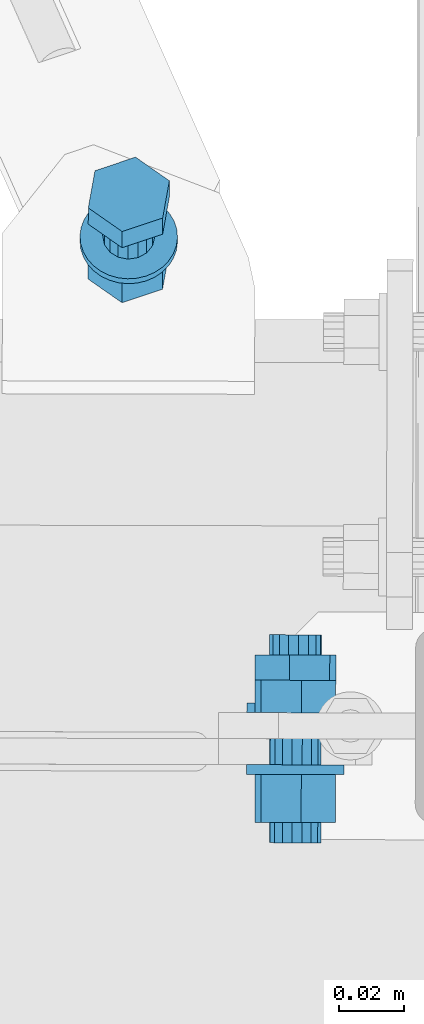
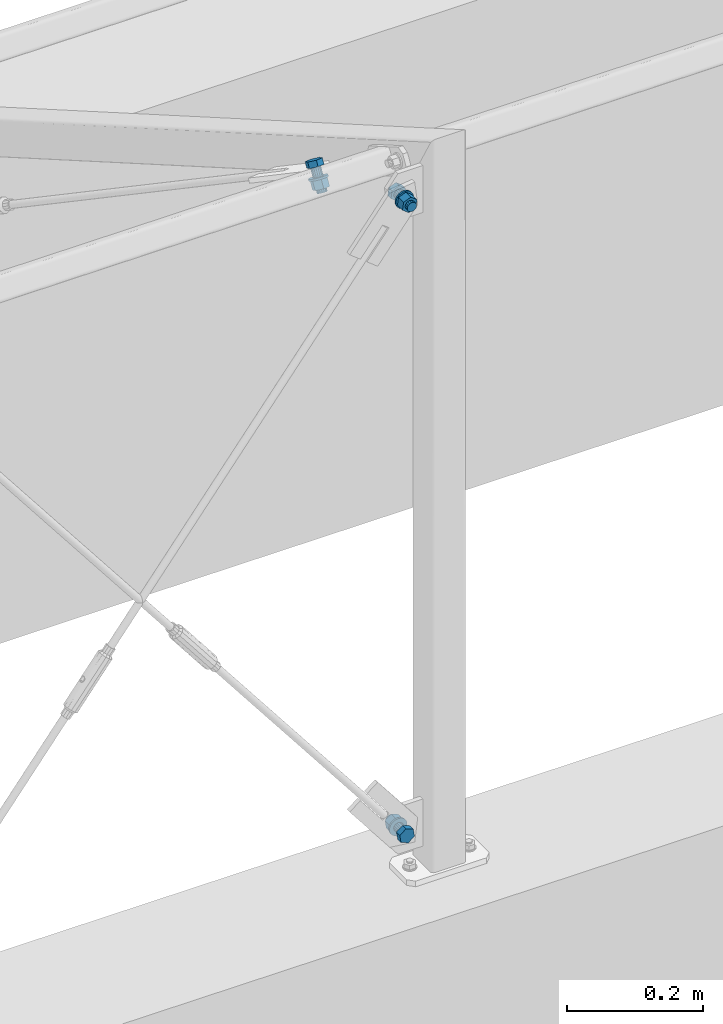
# One storey, part 209 of 288: 3 mechanical fasteners.
"""IFC2X3 building model written with IfcOpenShell, lengths in millimetres."""

from ifc_helpers import new_model, entity, si_unit, converted_unit, origin_with_axes, place, context, project, spatial, faceted_brep, element, save


model = new_model("IFC2X3")

# Units and contexts
model_context = context("Model", 3, precision=1e-09, world=origin_with_axes())
ifc_project = project(units=[si_unit("LENGTHUNIT", "METRE", prefix="MILLI"), si_unit("AREAUNIT", "SQUARE_METRE"), si_unit("VOLUMEUNIT", "CUBIC_METRE"), converted_unit("PLANEANGLEUNIT", "DEGREE", entity("IfcPlaneAngleMeasure", 0.01745329), si_unit("PLANEANGLEUNIT", "RADIAN"), dimensions=[0, 0, 0, 0, 0, 0, 0])], contexts=[model_context])

# Site, building, storey
site_placement = place(None, origin_with_axes())
site = spatial("IfcSite", under=ifc_project, at=site_placement, Name="Remont ?wietlik?w nad MC w NCPP w Opolu", CompositionType="ELEMENT")
building_placement = place(site_placement, origin_with_axes())
building = spatial("IfcBuilding", under=site, at=building_placement, Name="Konstrukcja 1", CompositionType="ELEMENT")
storey_placement = place(building_placement, origin_with_axes())
storey = spatial("IfcBuildingStorey", under=building, at=storey_placement, Name="Default Storey", CompositionType="ELEMENT", Elevation=0.0)

# Mechanical fasteners
mechanical_fastener_1_placement = place(None, origin_with_axes())
element("IfcMechanicalFastener", 1, at=mechanical_fastener_1_placement, inside=storey, ObjectType="Bolt#1", NominalDiameter=16.0, NominalLength=40.0, context=model_context, shape_type="Brep", body=[
    faceted_brep([(6947.486895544, -136.662814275, 1206.069501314), (6947.50943962, -126.662839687, 1206.069501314), (6959.9102046, -126.690796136, 1211.080576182), (6959.887660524, -136.690770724, 1211.080576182), (6961.770879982, -126.694990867, 1224.325518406), (6961.748335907, -136.694965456, 1224.325518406), (6951.230790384, -126.671229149, 1232.559385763), (6951.208246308, -136.671203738, 1232.559385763), (6938.830025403, -126.6432727, 1227.548310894), (6938.807481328, -136.643247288, 1227.548310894), (6936.969350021, -126.639077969, 1214.30336867), (6936.946805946, -136.639052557, 1214.30336867)], [[[0, 1, 2, 3]], [[3, 2, 4, 5]], [[5, 4, 6, 7]], [[7, 6, 8, 9]], [[9, 8, 10, 11]], [[11, 10, 1, 0]], [[4, 2, 1, 10, 8, 6]], [[0, 3, 5, 7, 9, 11]]]),
    faceted_brep([(6954.272488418, -136.678111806, 1225.618812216), (6954.236417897, -152.678071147, 1225.618812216), (6956.274102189, -152.682664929, 1223.254231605), (6956.31017271, -136.682705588, 1223.254231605), (6957.251793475, -152.68486905, 1220.289853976), (6957.287863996, -136.684909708, 1220.289853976), (6957.020647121, -152.68434795, 1217.17697895), (6957.056717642, -136.684388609, 1217.17697895), (6955.615853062, -152.681180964, 1214.389513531), (6955.651923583, -136.681221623, 1214.389513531), (6953.251278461, -152.675850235, 1212.351824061), (6953.287348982, -136.675890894, 1212.351824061), (6950.286908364, -152.66916732, 1211.37413029), (6950.322978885, -136.669207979, 1211.37413029), (6947.174041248, -152.662149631, 1211.605277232), (6947.210111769, -136.66219029, 1211.605277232), (6944.386582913, -152.655865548, 1213.010074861), (6944.422653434, -136.655906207, 1213.010074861), (6942.348898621, -152.651271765, 1215.374655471), (6942.384969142, -136.651312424, 1215.374655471), (6941.371207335, -152.649067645, 1218.3390331), (6941.407277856, -136.649108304, 1218.3390331), (6941.60235369, -152.649588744, 1221.451908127), (6941.638424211, -136.649629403, 1221.451908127), (6943.007147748, -152.652755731, 1224.239373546), (6943.043218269, -136.65279639, 1224.239373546), (6945.37172235, -152.658086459, 1226.277063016), (6945.407792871, -136.658127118, 1226.277063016), (6948.336092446, -152.664769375, 1227.254756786), (6948.372162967, -136.664810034, 1227.254756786), (6951.448959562, -152.671787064, 1227.023609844), (6951.485030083, -136.671827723, 1227.023609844)], [[[0, 1, 2, 3]], [[3, 2, 4, 5]], [[5, 4, 6, 7]], [[7, 6, 8, 9]], [[9, 8, 10, 11]], [[11, 10, 12, 13]], [[13, 12, 14, 15]], [[15, 14, 16, 17]], [[17, 16, 18, 19]], [[19, 18, 20, 21]], [[21, 20, 22, 23]], [[23, 22, 24, 25]], [[25, 24, 26, 27]], [[27, 26, 28, 29]], [[29, 28, 30, 31]], [[31, 30, 1, 0]], [[0, 3, 5, 7, 9, 11, 13, 15, 17, 19, 21, 23, 25, 27, 29, 31]], [[1, 30, 28, 26, 24, 22, 20, 18, 16, 14, 12, 10, 8, 6, 4, 2]]]),
    faceted_brep([(6958.545720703, -152.687786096, 1231.135134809), (6958.538957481, -155.687778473, 1231.135134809), (6960.667621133, -155.69257736, 1229.106491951), (6960.674384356, -152.692584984, 1229.106491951), (6962.359615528, -155.696391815, 1226.701546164), (6962.36637875, -152.696399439, 1226.701546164), (6963.549918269, -155.699075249, 1224.012718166), (6963.556681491, -152.699082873, 1224.012718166), (6964.192786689, -155.70052454, 1221.143338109), (6964.199549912, -152.700532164, 1221.143338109), (6964.263515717, -155.700683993, 1218.203674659), (6964.270278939, -152.700691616, 1218.203674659), (6963.759387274, -155.699547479, 1215.306697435), (6963.766150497, -152.699555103, 1215.306697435), (6962.699774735, -155.697158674, 1212.563735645), (6962.706537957, -152.697166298, 1212.563735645), (6961.125398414, -155.69360938, 1210.080199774), (6961.132161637, -152.693617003, 1210.080199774), (6959.096760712, -155.689035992, 1207.951530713), (6959.103523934, -152.689043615, 1207.951530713), (6956.691821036, -155.683614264, 1206.259532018), (6956.698584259, -152.683621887, 1206.259532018), (6954.002999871, -155.67755255, 1205.069226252), (6954.009763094, -152.677560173, 1205.069226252), (6951.133627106, -155.671083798, 1204.426356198), (6951.140390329, -152.671091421, 1204.426356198), (6948.193971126, -155.664456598, 1204.355626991), (6948.200734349, -152.664464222, 1204.355626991), (6945.297001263, -155.657925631, 1204.859756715), (6945.303764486, -152.657933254, 1204.859756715), (6942.554046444, -155.651741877, 1205.919371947), (6942.560809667, -152.6517495, 1205.919371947), (6940.070516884, -155.646142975, 1207.493752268), (6940.077280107, -152.646150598, 1207.493752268), (6937.941853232, -155.641344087, 1209.522395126), (6937.948616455, -152.641351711, 1209.522395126), (6936.249858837, -155.637529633, 1211.927340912), (6936.25662206, -152.637537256, 1211.927340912), (6935.059556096, -155.634846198, 1214.61616891), (6935.066319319, -152.634853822, 1214.61616891), (6934.416687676, -155.633396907, 1217.485548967), (6934.423450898, -152.633404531, 1217.485548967), (6934.345958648, -155.633237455, 1220.425212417), (6934.352721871, -152.633245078, 1220.425212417), (6934.850087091, -155.634373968, 1223.322189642), (6934.856850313, -152.634381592, 1223.322189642), (6935.90969963, -155.636762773, 1226.065151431), (6935.916462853, -152.636770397, 1226.065151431), (6937.484075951, -155.640312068, 1228.548687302), (6937.490839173, -152.640319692, 1228.548687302), (6939.512713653, -155.644885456, 1230.677356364), (6939.519476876, -152.644893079, 1230.677356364), (6941.917653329, -155.650307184, 1232.369355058), (6941.924416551, -152.650314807, 1232.369355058), (6944.606474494, -155.656368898, 1233.559660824), (6944.613237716, -152.656376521, 1233.559660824), (6947.475847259, -155.66283765, 1234.202530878), (6947.482610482, -152.662845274, 1234.202530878), (6950.415503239, -155.66946485, 1234.273260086), (6950.422266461, -152.669472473, 1234.273260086), (6953.312473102, -155.675995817, 1233.769130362), (6953.319236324, -152.67600344, 1233.769130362), (6956.055427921, -155.682179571, 1232.70951513), (6956.062191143, -152.682187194, 1232.70951513)], [[[0, 1, 2, 3]], [[3, 2, 4, 5]], [[5, 4, 6, 7]], [[7, 6, 8, 9]], [[9, 8, 10, 11]], [[11, 10, 12, 13]], [[13, 12, 14, 15]], [[15, 14, 16, 17]], [[17, 16, 18, 19]], [[19, 18, 20, 21]], [[21, 20, 22, 23]], [[23, 22, 24, 25]], [[25, 24, 26, 27]], [[27, 26, 28, 29]], [[29, 28, 30, 31]], [[31, 30, 32, 33]], [[33, 32, 34, 35]], [[35, 34, 36, 37]], [[37, 36, 38, 39]], [[39, 38, 40, 41]], [[41, 40, 42, 43]], [[43, 42, 44, 45]], [[45, 44, 46, 47]], [[47, 46, 48, 49]], [[49, 48, 50, 51]], [[51, 50, 52, 53]], [[53, 52, 54, 55]], [[55, 54, 56, 57]], [[57, 56, 58, 59]], [[59, 58, 60, 61]], [[61, 60, 62, 63]], [[63, 62, 1, 0]], [[0, 3, 5, 7, 9, 11, 13, 15, 17, 19, 21, 23, 25, 27, 29, 31, 33, 35, 37, 39, 41, 43, 45, 47, 49, 51, 53, 55, 57, 59, 61, 63]], [[1, 62, 60, 58, 56, 54, 52, 50, 48, 46, 44, 42, 40, 38, 36, 34, 32, 30, 28, 26, 24, 22, 20, 18, 16, 14, 12, 10, 8, 6, 4, 2]]]),
    faceted_brep([(6947.410696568, -170.462728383, 1206.069501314), (6947.4440618, -155.662765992, 1206.069501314), (6959.844826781, -155.690722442, 1211.080576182), (6959.811461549, -170.490684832, 1211.080576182), (6961.705502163, -155.694917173, 1224.325518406), (6961.672136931, -170.494879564, 1224.325518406), (6951.165412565, -155.671155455, 1232.559385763), (6951.132047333, -170.471117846, 1232.559385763), (6938.764647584, -155.643199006, 1227.548310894), (6938.731282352, -170.443161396, 1227.548310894), (6936.903972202, -155.639004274, 1214.30336867), (6936.87060697, -170.438966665, 1214.30336867)], [[[0, 1, 2, 3]], [[3, 2, 4, 5]], [[5, 4, 6, 7]], [[7, 6, 8, 9]], [[9, 8, 10, 11]], [[11, 10, 1, 0]], [[4, 2, 1, 10, 8, 6]], [[0, 3, 5, 7, 9, 11]]]),
    faceted_brep([(6954.196289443, -170.478025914, 1225.618812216), (6954.182312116, -176.678010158, 1225.618812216), (6956.219996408, -176.682603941, 1223.254231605), (6956.233973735, -170.482619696, 1223.254231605), (6957.197687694, -176.684808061, 1220.289853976), (6957.211665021, -170.484823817, 1220.289853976), (6956.966541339, -176.684286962, 1217.17697895), (6956.980518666, -170.484302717, 1217.17697895), (6955.561747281, -176.681119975, 1214.389513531), (6955.575724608, -170.481135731, 1214.389513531), (6953.197172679, -176.675789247, 1212.351824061), (6953.211150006, -170.475805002, 1212.351824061), (6950.232802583, -176.669106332, 1211.37413029), (6950.24677991, -170.469122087, 1211.37413029), (6947.119935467, -176.662088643, 1211.605277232), (6947.133912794, -170.462104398, 1211.605277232), (6944.332477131, -176.65580456, 1213.010074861), (6944.346454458, -170.455820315, 1213.010074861), (6942.29479284, -176.651210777, 1215.374655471), (6942.308770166, -170.451226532, 1215.374655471), (6941.317101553, -176.649006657, 1218.3390331), (6941.33107888, -170.449022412, 1218.3390331), (6941.548247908, -176.649527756, 1221.451908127), (6941.562225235, -170.449543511, 1221.451908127), (6942.953041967, -176.652694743, 1224.239373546), (6942.967019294, -170.452710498, 1224.239373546), (6945.317616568, -176.658025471, 1226.277063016), (6945.331593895, -170.458041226, 1226.277063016), (6948.281986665, -176.664708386, 1227.254756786), (6948.295963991, -170.464724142, 1227.254756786), (6951.394853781, -176.671726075, 1227.023609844), (6951.408831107, -170.471741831, 1227.023609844)], [[[0, 1, 2, 3]], [[3, 2, 4, 5]], [[5, 4, 6, 7]], [[7, 6, 8, 9]], [[9, 8, 10, 11]], [[11, 10, 12, 13]], [[13, 12, 14, 15]], [[15, 14, 16, 17]], [[17, 16, 18, 19]], [[19, 18, 20, 21]], [[21, 20, 22, 23]], [[23, 22, 24, 25]], [[25, 24, 26, 27]], [[27, 26, 28, 29]], [[29, 28, 30, 31]], [[31, 30, 1, 0]], [[0, 3, 5, 7, 9, 11, 13, 15, 17, 19, 21, 23, 25, 27, 29, 31]], [[1, 30, 28, 26, 24, 22, 20, 18, 16, 14, 12, 10, 8, 6, 4, 2]]]),
])
mechanical_fastener_2_placement = place(None, origin_with_axes())
element("IfcMechanicalFastener", 2, at=mechanical_fastener_2_placement, inside=storey, ObjectType="Bolt#1", NominalDiameter=16.0, NominalLength=40.0, context=model_context, shape_type="Brep", body=[
    faceted_brep([(6947.450750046, -152.669388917, 98.930498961), (6947.428055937, -162.669363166, 98.930498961), (6959.828820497, -162.697505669, 93.919424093), (6959.851514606, -152.69753142, 93.919424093), (6961.689495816, -162.701728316, 80.674481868), (6961.712189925, -152.701754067, 80.674481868), (6951.149406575, -162.677808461, 72.440614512), (6951.172100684, -152.677834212, 72.440614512), (6938.748642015, -162.649665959, 77.45168938), (6938.771336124, -152.64969171, 77.45168938), (6936.887966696, -162.645443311, 90.696631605), (6936.910660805, -152.645469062, 90.696631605)], [[[0, 1, 2, 3]], [[3, 2, 4, 5]], [[5, 4, 6, 7]], [[7, 6, 8, 9]], [[9, 8, 10, 11]], [[11, 10, 1, 0]], [[4, 2, 1, 10, 8, 6]], [[0, 3, 5, 7, 9, 11]]]),
    faceted_brep([(6954.23634269, -152.684788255, 79.381188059), (6954.272653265, -136.684829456, 79.381188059), (6956.310337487, -136.689453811, 81.745768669), (6956.274026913, -152.689412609, 81.745768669), (6957.28802874, -136.6916726, 84.710146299), (6957.251718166, -152.691631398, 84.710146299), (6957.056882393, -136.691148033, 87.823021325), (6957.020571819, -152.691106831, 87.823021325), (6955.652088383, -136.68795997, 90.610486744), (6955.615777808, -152.687918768, 90.610486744), (6953.287513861, -136.682593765, 92.648176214), (6953.251203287, -152.682552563, 92.648176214), (6950.323143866, -136.675866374, 93.625869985), (6950.286833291, -152.675825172, 93.625869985), (6947.210276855, -136.668801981, 93.394723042), (6947.173966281, -152.668760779, 93.394723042), (6944.422818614, -136.662476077, 91.989925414), (6944.38650804, -152.662434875, 91.989925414), (6942.385134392, -136.657851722, 89.625344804), (6942.348823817, -152.65781052, 89.625344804), (6941.407443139, -136.655632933, 86.660967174), (6941.371132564, -152.655591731, 86.660967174), (6941.638589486, -136.656157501, 83.548092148), (6941.602278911, -152.656116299, 83.548092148), (6943.043383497, -136.659345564, 80.760626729), (6943.007072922, -152.659304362, 80.760626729), (6945.407958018, -136.664711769, 78.722937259), (6945.371647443, -152.664670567, 78.722937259), (6948.372328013, -136.67143916, 77.745243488), (6948.336017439, -152.671397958, 77.745243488), (6951.485195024, -136.678503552, 77.976390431), (6951.448884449, -152.67846235, 77.976390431)], [[[0, 1, 2, 3]], [[3, 2, 4, 5]], [[5, 4, 6, 7]], [[7, 6, 8, 9]], [[9, 8, 10, 11]], [[11, 10, 12, 13]], [[13, 12, 14, 15]], [[15, 14, 16, 17]], [[17, 16, 18, 19]], [[19, 18, 20, 21]], [[21, 20, 22, 23]], [[23, 22, 24, 25]], [[25, 24, 26, 27]], [[27, 26, 28, 29]], [[29, 28, 30, 31]], [[31, 30, 1, 0]], [[0, 3, 5, 7, 9, 11, 13, 15, 17, 19, 21, 23, 25, 27, 29, 31]], [[1, 30, 28, 26, 24, 22, 20, 18, 16, 14, 12, 10, 8, 6, 4, 2]]]),
    faceted_brep([(6958.581955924, -136.69460906, 73.864865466), (6958.588764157, -133.694616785, 73.864865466), (6960.717427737, -133.69944761, 75.893508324), (6960.710619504, -136.699439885, 75.893508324), (6962.409422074, -133.70328745, 78.298454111), (6962.402613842, -136.703279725, 78.298454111), (6963.599724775, -133.705988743, 80.987282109), (6963.592916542, -136.705981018, 80.987282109), (6964.242593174, -133.70744768, 83.856662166), (6964.235784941, -136.707439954, 83.856662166), (6964.313322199, -133.707608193, 86.796325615), (6964.306513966, -136.707600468, 86.796325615), (6963.809193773, -133.706464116, 89.69330284), (6963.802385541, -136.70645639, 89.69330284), (6962.74958127, -133.704059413, 92.436264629), (6962.742773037, -136.704051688, 92.436264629), (6961.175205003, -133.700486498, 94.9198005), (6961.16839677, -136.700478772, 94.9198005), (6959.146567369, -133.695882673, 97.048469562), (6959.139759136, -136.695874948, 97.048469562), (6956.741627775, -133.690424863, 98.740468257), (6956.734819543, -136.690417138, 98.740468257), (6954.052806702, -133.684322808, 99.930774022), (6954.045998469, -136.684315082, 99.930774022), (6951.183434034, -133.677811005, 100.573644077), (6951.176625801, -136.67780328, 100.573644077), (6948.243778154, -133.671139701, 100.644373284), (6948.236969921, -136.671131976, 100.644373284), (6945.346808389, -133.664565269, 100.14024356), (6945.340000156, -136.664557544, 100.14024356), (6942.603853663, -133.658340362, 99.080628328), (6942.59704543, -136.658332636, 99.080628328), (6940.120324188, -133.652704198, 97.506248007), (6940.113515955, -136.652696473, 97.506248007), (6937.991660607, -133.647873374, 95.477605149), (6937.984852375, -136.647865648, 95.477605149), (6936.29966627, -133.644033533, 93.072659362), (6936.292858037, -136.644025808, 93.072659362), (6935.10936357, -133.641332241, 90.383831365), (6935.102555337, -136.641324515, 90.383831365), (6934.466495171, -133.639873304, 87.514451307), (6934.459686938, -136.639865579, 87.514451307), (6934.395766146, -133.639712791, 84.574787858), (6934.388957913, -136.639705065, 84.574787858), (6934.899894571, -133.640856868, 81.677810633), (6934.893086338, -136.640849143, 81.677810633), (6935.959507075, -133.64326157, 78.934848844), (6935.952698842, -136.643253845, 78.934848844), (6937.533883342, -133.646834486, 76.451312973), (6937.527075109, -136.646826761, 76.451312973), (6939.562520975, -133.651438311, 74.322643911), (6939.555712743, -136.651430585, 74.322643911), (6941.967460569, -133.656896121, 72.630645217), (6941.960652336, -136.656888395, 72.630645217), (6944.656281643, -133.662998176, 71.440339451), (6944.64947341, -136.662990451, 71.440339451), (6947.525654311, -133.669509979, 70.797469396), (6947.518846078, -136.669502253, 70.797469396), (6950.465310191, -133.676181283, 70.726740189), (6950.458501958, -136.676173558, 70.726740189), (6953.362279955, -133.682755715, 71.230869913), (6953.355471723, -136.682747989, 71.230869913), (6956.105234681, -133.688980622, 72.290485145), (6956.098426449, -136.688972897, 72.290485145)], [[[0, 1, 2, 3]], [[3, 2, 4, 5]], [[5, 4, 6, 7]], [[7, 6, 8, 9]], [[9, 8, 10, 11]], [[11, 10, 12, 13]], [[13, 12, 14, 15]], [[15, 14, 16, 17]], [[17, 16, 18, 19]], [[19, 18, 20, 21]], [[21, 20, 22, 23]], [[23, 22, 24, 25]], [[25, 24, 26, 27]], [[27, 26, 28, 29]], [[29, 28, 30, 31]], [[31, 30, 32, 33]], [[33, 32, 34, 35]], [[35, 34, 36, 37]], [[37, 36, 38, 39]], [[39, 38, 40, 41]], [[41, 40, 42, 43]], [[43, 42, 44, 45]], [[45, 44, 46, 47]], [[47, 46, 48, 49]], [[49, 48, 50, 51]], [[51, 50, 52, 53]], [[53, 52, 54, 55]], [[55, 54, 56, 57]], [[57, 56, 58, 59]], [[59, 58, 60, 61]], [[61, 60, 62, 63]], [[63, 62, 1, 0]], [[0, 3, 5, 7, 9, 11, 13, 15, 17, 19, 21, 23, 25, 27, 29, 31, 33, 35, 37, 39, 41, 43, 45, 47, 49, 51, 53, 55, 57, 59, 61, 63]], [[1, 62, 60, 58, 56, 54, 52, 50, 48, 46, 44, 42, 40, 38, 36, 34, 32, 30, 28, 26, 24, 22, 20, 18, 16, 14, 12, 10, 8, 6, 4, 2]]]),
    faceted_brep([(6947.527456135, -118.869475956, 98.930498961), (6947.493868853, -133.669437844, 98.930498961), (6959.894633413, -133.697580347, 93.919424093), (6959.928220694, -118.897618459, 93.919424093), (6961.755308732, -133.701802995, 80.674481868), (6961.788896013, -118.901841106, 80.674481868), (6951.215219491, -133.67788314, 72.440614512), (6951.248806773, -118.877921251, 72.440614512), (6938.814454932, -133.649740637, 77.45168938), (6938.848042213, -118.849778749, 77.45168938), (6936.953779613, -133.645517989, 90.696631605), (6936.987366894, -118.845556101, 90.696631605)], [[[0, 1, 2, 3]], [[3, 2, 4, 5]], [[5, 4, 6, 7]], [[7, 6, 8, 9]], [[9, 8, 10, 11]], [[11, 10, 1, 0]], [[4, 2, 1, 10, 8, 6]], [[0, 3, 5, 7, 9, 11]]]),
    faceted_brep([(6954.313048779, -118.884875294, 79.381188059), (6954.327119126, -112.684891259, 79.381188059), (6956.364803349, -112.689515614, 81.745768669), (6956.350733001, -118.889499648, 81.745768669), (6957.342494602, -112.691734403, 84.710146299), (6957.328424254, -118.891718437, 84.710146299), (6957.111348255, -112.691209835, 87.823021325), (6957.097277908, -118.89119387, 87.823021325), (6955.706554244, -112.688021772, 90.610486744), (6955.692483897, -118.888005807, 90.610486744), (6953.341979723, -112.682655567, 92.648176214), (6953.327909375, -118.882639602, 92.648176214), (6950.377609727, -112.675928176, 93.625869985), (6950.36353938, -118.875912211, 93.625869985), (6947.264742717, -112.668863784, 93.394723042), (6947.250672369, -118.868847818, 93.394723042), (6944.477284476, -112.66253788, 91.989925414), (6944.463214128, -118.862521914, 91.989925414), (6942.439600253, -112.657913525, 89.625344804), (6942.425529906, -118.857897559, 89.625344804), (6941.461909, -112.655694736, 86.660967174), (6941.447838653, -118.85567877, 86.660967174), (6941.693055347, -112.656219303, 83.548092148), (6941.678985, -118.856203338, 83.548092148), (6943.097849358, -112.659407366, 80.760626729), (6943.083779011, -118.859391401, 80.760626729), (6945.462423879, -112.664773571, 78.722937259), (6945.448353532, -118.864757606, 78.722937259), (6948.426793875, -112.671500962, 77.745243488), (6948.412723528, -118.871484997, 77.745243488), (6951.539660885, -112.678565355, 77.976390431), (6951.525590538, -118.878549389, 77.976390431)], [[[0, 1, 2, 3]], [[3, 2, 4, 5]], [[5, 4, 6, 7]], [[7, 6, 8, 9]], [[9, 8, 10, 11]], [[11, 10, 12, 13]], [[13, 12, 14, 15]], [[15, 14, 16, 17]], [[17, 16, 18, 19]], [[19, 18, 20, 21]], [[21, 20, 22, 23]], [[23, 22, 24, 25]], [[25, 24, 26, 27]], [[27, 26, 28, 29]], [[29, 28, 30, 31]], [[31, 30, 1, 0]], [[0, 3, 5, 7, 9, 11, 13, 15, 17, 19, 21, 23, 25, 27, 29, 31]], [[1, 30, 28, 26, 24, 22, 20, 18, 16, 14, 12, 10, 8, 6, 4, 2]]]),
])
mechanical_fastener_3_placement = place(None, origin_with_axes())
element("IfcMechanicalFastener", 3, at=mechanical_fastener_3_placement, inside=storey, ObjectType="Bolt#1", NominalDiameter=16.0, NominalLength=40.0, context=model_context, shape_type="Brep", body=[
    faceted_brep([(6887.700074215, 30.084591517, 1196.90048924), (6887.688802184, 25.084607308, 1188.240233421), (6885.629277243, 13.6408149, 1194.849968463), (6885.640549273, 18.640799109, 1203.510224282), (6896.044451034, 6.367822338, 1199.035462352), (6896.055723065, 11.367806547, 1207.695718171), (6908.519149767, 10.538622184, 1196.611221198), (6908.530421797, 15.538606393, 1205.271477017), (6910.578674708, 21.982414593, 1190.001486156), (6910.589946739, 26.982398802, 1198.661741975), (6900.163500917, 29.255407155, 1185.815992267), (6900.174772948, 34.255391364, 1194.476248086)], [[[0, 1, 2, 3]], [[3, 2, 4, 5]], [[5, 4, 6, 7]], [[7, 6, 8, 9]], [[9, 8, 10, 11]], [[11, 10, 1, 0]], [[3, 5, 7, 9, 11, 0]], [[2, 1, 10, 8, 6, 4]]]),
    faceted_brep([(6900.971405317, 3.348153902, 1182.297245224), (6900.989440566, 11.348128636, 1196.153654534), (6897.914404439, 10.885457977, 1196.424779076), (6897.89636919, 2.885483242, 1182.568369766), (6894.86822886, 11.4772319, 1196.087084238), (6894.850193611, 3.477257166, 1182.230674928), (6892.314666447, 13.03335819, 1195.191980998), (6892.296631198, 5.033383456, 1181.335571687), (6890.64247393, 15.316930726, 1193.87574071), (6890.624438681, 7.316955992, 1180.019331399), (6890.10622746, 17.98029629, 1192.338749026), (6890.088192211, 9.980321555, 1178.482339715), (6890.787565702, 20.617981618, 1190.814998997), (6890.769530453, 12.618006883, 1176.958589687), (6892.582761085, 22.828423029, 1189.536467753), (6892.564725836, 14.828448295, 1175.680058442), (6895.218511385, 24.275100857, 1188.697800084), (6895.200476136, 16.275126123, 1174.841390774), (6898.293547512, 24.737771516, 1188.426675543), (6898.275512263, 16.737796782, 1174.570266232), (6901.339723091, 24.145997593, 1188.764370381), (6901.321687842, 16.146022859, 1174.90796107), (6903.893285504, 22.589871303, 1189.659473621), (6903.875250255, 14.589896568, 1175.803064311), (6905.565478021, 20.306298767, 1190.975713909), (6905.547442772, 12.306324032, 1177.119304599), (6906.101724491, 17.642933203, 1192.512705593), (6906.083689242, 9.642958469, 1178.656296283), (6905.420386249, 15.005247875, 1194.036455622), (6905.402351, 7.005273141, 1180.180046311), (6903.625190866, 12.794806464, 1195.314986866), (6903.607155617, 4.794831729, 1181.458577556)], [[[0, 1, 2, 3]], [[3, 2, 4, 5]], [[5, 4, 6, 7]], [[7, 6, 8, 9]], [[9, 8, 10, 11]], [[11, 10, 12, 13]], [[13, 12, 14, 15]], [[15, 14, 16, 17]], [[17, 16, 18, 19]], [[19, 18, 20, 21]], [[21, 20, 22, 23]], [[23, 22, 24, 25]], [[25, 24, 26, 27]], [[27, 26, 28, 29]], [[29, 28, 30, 31]], [[31, 30, 1, 0]], [[2, 1, 30, 28, 26, 24, 22, 20, 18, 16, 14, 12, 10, 8, 6, 4]], [[31, 0, 3, 5, 7, 9, 11, 13, 15, 17, 19, 21, 23, 25, 27, 29]]]),
    faceted_brep([(6903.492805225, -3.807391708, 1182.9611048), (6903.496186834, -2.307396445, 1185.559181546), (6900.662855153, -2.987073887, 1185.955279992), (6900.659473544, -4.48706915, 1183.357203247), (6897.730494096, -3.174903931, 1186.067540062), (6897.727112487, -4.674899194, 1183.469463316), (6894.811792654, -2.863668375, 1185.891647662), (6894.808411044, -4.363663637, 1183.293570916), (6892.018914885, -2.065327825, 1185.43436224), (6892.015533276, -3.565323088, 1182.836285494), (6889.459189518, -0.810562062, 1184.713257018), (6889.455807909, -2.310557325, 1182.115180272), (6887.230985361, 0.852408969, 1183.756043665), (6887.227603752, -0.647586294, 1181.157966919), (6885.419931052, 2.859678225, 1182.599507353), (6885.416549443, 1.359682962, 1180.001430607), (6884.095624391, 5.134107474, 1181.288093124), (6884.092242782, 3.634112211, 1178.690016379), (6883.308957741, 7.588291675, 1179.872197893), (6883.305576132, 6.088296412, 1177.274121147), (6883.09016226, 10.127917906, 1178.406233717), (6883.086780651, 8.627922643, 1175.808156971), (6883.447646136, 12.655389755, 1176.946536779), (6883.444264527, 11.155394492, 1174.348460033), (6884.367671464, 15.073577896, 1175.549202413), (6884.364289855, 13.573582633, 1172.951125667), (6885.814882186, 17.289552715, 1174.267929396), (6885.811500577, 15.789557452, 1171.66985265), (6887.733662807, 19.218155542, 1173.15195633), (6887.730281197, 17.718160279, 1170.553879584), (6890.050275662, 20.785271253, 1172.244169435), (6890.046894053, 19.28527599, 1169.646092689), (6892.675694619, 21.930676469, 1171.579454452), (6892.67231301, 20.430681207, 1168.981377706), (6895.5090263, 22.610353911, 1171.183356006), (6895.505644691, 21.110358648, 1168.58527926), (6898.441387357, 22.798183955, 1171.071095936), (6898.438005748, 21.298188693, 1168.473019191), (6901.3600888, 22.486948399, 1171.246988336), (6901.35670719, 20.986953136, 1168.64891159), (6904.152966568, 21.688607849, 1171.704273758), (6904.149584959, 20.188612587, 1169.106197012), (6906.712691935, 20.433842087, 1172.42537898), (6906.709310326, 18.933846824, 1169.827302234), (6908.940896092, 18.770871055, 1173.382592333), (6908.937514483, 17.270875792, 1170.784515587), (6910.751950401, 16.763601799, 1174.539128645), (6910.748568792, 15.263606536, 1171.941051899), (6912.076257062, 14.48917255, 1175.850542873), (6912.072875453, 12.989177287, 1173.252466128), (6912.862923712, 12.034988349, 1177.266438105), (6912.859542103, 10.534993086, 1174.66836136), (6913.081719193, 9.495362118, 1178.732402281), (6913.078337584, 7.995366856, 1176.134325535), (6912.724235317, 6.96789027, 1180.192099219), (6912.720853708, 5.467895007, 1177.594022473), (6911.804209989, 4.549702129, 1181.589433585), (6911.80082838, 3.049706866, 1178.991356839), (6910.356999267, 2.33372731, 1182.870706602), (6910.353617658, 0.833732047, 1180.272629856), (6908.438218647, 0.405124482, 1183.986679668), (6908.434837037, -1.094870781, 1181.388602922), (6906.121605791, -1.161991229, 1184.894466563), (6906.118224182, -2.661986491, 1182.296389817)], [[[0, 1, 2, 3]], [[3, 2, 4, 5]], [[5, 4, 6, 7]], [[7, 6, 8, 9]], [[9, 8, 10, 11]], [[11, 10, 12, 13]], [[13, 12, 14, 15]], [[15, 14, 16, 17]], [[17, 16, 18, 19]], [[19, 18, 20, 21]], [[21, 20, 22, 23]], [[23, 22, 24, 25]], [[25, 24, 26, 27]], [[27, 26, 28, 29]], [[29, 28, 30, 31]], [[31, 30, 32, 33]], [[33, 32, 34, 35]], [[35, 34, 36, 37]], [[37, 36, 38, 39]], [[39, 38, 40, 41]], [[41, 40, 42, 43]], [[43, 42, 44, 45]], [[45, 44, 46, 47]], [[47, 46, 48, 49]], [[49, 48, 50, 51]], [[51, 50, 52, 53]], [[53, 52, 54, 55]], [[55, 54, 56, 57]], [[57, 56, 58, 59]], [[59, 58, 60, 61]], [[61, 60, 62, 63]], [[63, 62, 1, 0]], [[2, 1, 62, 60, 58, 56, 54, 52, 50, 48, 46, 44, 42, 40, 38, 36, 34, 32, 30, 28, 26, 24, 22, 20, 18, 16, 14, 12, 10, 8, 6, 4]], [[63, 0, 3, 5, 7, 9, 11, 13, 15, 17, 19, 21, 23, 25, 27, 29, 31, 33, 35, 37, 39, 41, 43, 45, 47, 49, 51, 53, 55, 57, 59, 61]]]),
    faceted_brep([(6887.667385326, 15.584637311, 1171.785747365), (6887.650702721, 8.184660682, 1158.968568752), (6885.59117778, -3.259131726, 1165.578303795), (6885.607860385, 4.140844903, 1178.395482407), (6896.006351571, -10.532124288, 1169.763797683), (6896.023034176, -3.132147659, 1182.580976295), (6908.481050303, -6.361324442, 1167.33955653), (6908.497732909, 1.038652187, 1180.156735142), (6910.540575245, 5.082467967, 1160.729821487), (6910.55725785, 12.482444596, 1173.5470001), (6900.125401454, 12.355460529, 1156.544327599), (6900.142084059, 19.755437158, 1169.361506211)], [[[0, 1, 2, 3]], [[3, 2, 4, 5]], [[5, 4, 6, 7]], [[7, 6, 8, 9]], [[9, 8, 10, 11]], [[11, 10, 1, 0]], [[3, 5, 7, 9, 11, 0]], [[2, 1, 10, 8, 6, 4]]]),
    faceted_brep([(6900.944352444, -8.6518082, 1161.512631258), (6900.951341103, -5.55181799, 1166.881989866), (6897.876304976, -6.01448865, 1167.153114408), (6897.869316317, -9.114478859, 1161.7837558), (6894.830129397, -5.422714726, 1166.81541957), (6894.823140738, -8.522704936, 1161.446060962), (6892.276566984, -3.866588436, 1165.920316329), (6892.269578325, -6.966578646, 1160.550957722), (6890.604374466, -1.5830159, 1164.604076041), (6890.597385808, -4.68300611, 1159.234717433), (6890.068127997, 1.080349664, 1163.067084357), (6890.061139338, -2.019640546, 1157.697725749), (6890.749466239, 3.718034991, 1161.543334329), (6890.74247758, 0.618044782, 1156.173975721), (6892.544661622, 5.928476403, 1160.264803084), (6892.537672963, 2.828486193, 1154.895444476), (6895.180411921, 7.375154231, 1159.426135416), (6895.173423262, 4.275164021, 1154.056776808), (6898.255448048, 7.83782489, 1159.155010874), (6898.248459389, 4.73783468, 1153.785652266), (6901.301623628, 7.246050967, 1159.492705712), (6901.294634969, 4.146060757, 1154.123347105), (6903.85518604, 5.689924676, 1160.387808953), (6903.848197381, 2.589934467, 1155.018450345), (6905.527378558, 3.40635214, 1161.704049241), (6905.520389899, 0.306361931, 1156.334690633), (6906.063625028, 0.742986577, 1163.241040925), (6906.056636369, -2.357003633, 1157.871682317), (6905.382286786, -1.894698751, 1164.764790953), (6905.375298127, -4.994688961, 1159.395432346), (6903.587091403, -4.105140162, 1166.043322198), (6903.580102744, -7.205130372, 1160.67396359)], [[[0, 1, 2, 3]], [[3, 2, 4, 5]], [[5, 4, 6, 7]], [[7, 6, 8, 9]], [[9, 8, 10, 11]], [[11, 10, 12, 13]], [[13, 12, 14, 15]], [[15, 14, 16, 17]], [[17, 16, 18, 19]], [[19, 18, 20, 21]], [[21, 20, 22, 23]], [[23, 22, 24, 25]], [[25, 24, 26, 27]], [[27, 26, 28, 29]], [[29, 28, 30, 31]], [[31, 30, 1, 0]], [[2, 1, 30, 28, 26, 24, 22, 20, 18, 16, 14, 12, 10, 8, 6, 4]], [[31, 0, 3, 5, 7, 9, 11, 13, 15, 17, 19, 21, 23, 25, 27, 29]]]),
])

save(model, "model.ifc")
